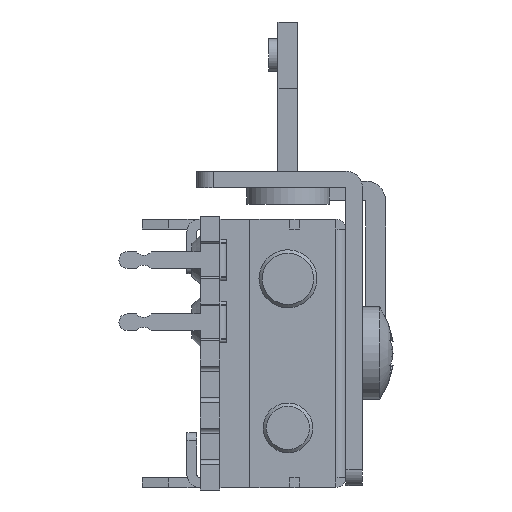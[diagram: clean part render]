
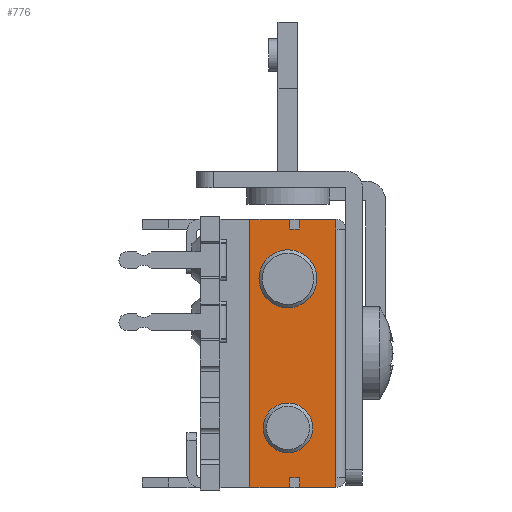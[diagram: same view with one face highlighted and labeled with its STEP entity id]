
A CAD part, left-side view. The second image highlights one B-rep face of the part: STEP entity #776.
In plain terms, the highlighted planar face has unit normal (-1, 0, 0).
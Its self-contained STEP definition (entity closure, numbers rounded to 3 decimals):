
#32 = VERTEX_POINT('',#33);
#33 = CARTESIAN_POINT('',(-63.6,-2.9,-2.9));
#39 = EDGE_CURVE('',#40,#32,#42,.T.);
#40 = VERTEX_POINT('',#41);
#41 = CARTESIAN_POINT('',(-63.6,-0.7,-2.9));
#42 = LINE('',#43,#44);
#43 = CARTESIAN_POINT('',(-63.6,2.3,-2.9));
#44 = VECTOR('',#45,1.);
#45 = DIRECTION('',(0.,-1.,0.));
#64 = VERTEX_POINT('',#65);
#65 = CARTESIAN_POINT('',(-63.6,-0.1,-2.9));
#71 = EDGE_CURVE('',#72,#64,#74,.T.);
#72 = VERTEX_POINT('',#73);
#73 = CARTESIAN_POINT('',(-63.6,2.3,-2.9));
#74 = LINE('',#75,#76);
#75 = CARTESIAN_POINT('',(-63.6,2.3,-2.9));
#76 = VECTOR('',#77,1.);
#77 = DIRECTION('',(0.,-1.,0.));
#727 = EDGE_CURVE('',#728,#32,#730,.T.);
#728 = VERTEX_POINT('',#729);
#729 = CARTESIAN_POINT('',(-63.6,-2.9,-3.5));
#730 = LINE('',#731,#732);
#731 = CARTESIAN_POINT('',(-63.6,-2.9,-2.2));
#732 = VECTOR('',#733,1.);
#733 = DIRECTION('',(0.,0.,1.));
#776 = ADVANCED_FACE('',(#777,#866,#877),#888,.T.);
#777 = FACE_BOUND('',#778,.T.);
#778 = EDGE_LOOP('',(#779,#787,#788,#789,#797,#805,#811,#812,#820,#828,
    #836,#844,#852,#860));
#779 = ORIENTED_EDGE('',*,*,#780,.F.);
#780 = EDGE_CURVE('',#728,#781,#783,.T.);
#781 = VERTEX_POINT('',#782);
#782 = CARTESIAN_POINT('',(-63.6,-2.9,-18.5));
#783 = LINE('',#784,#785);
#784 = CARTESIAN_POINT('',(-63.6,-2.9,-3.5));
#785 = VECTOR('',#786,1.);
#786 = DIRECTION('',(0.,0.,-1.));
#787 = ORIENTED_EDGE('',*,*,#727,.T.);
#788 = ORIENTED_EDGE('',*,*,#39,.F.);
#789 = ORIENTED_EDGE('',*,*,#790,.F.);
#790 = EDGE_CURVE('',#791,#40,#793,.T.);
#791 = VERTEX_POINT('',#792);
#792 = CARTESIAN_POINT('',(-63.6,-0.7,-3.5));
#793 = LINE('',#794,#795);
#794 = CARTESIAN_POINT('',(-63.6,-0.7,-2.2));
#795 = VECTOR('',#796,1.);
#796 = DIRECTION('',(0.,0.,1.));
#797 = ORIENTED_EDGE('',*,*,#798,.F.);
#798 = EDGE_CURVE('',#799,#791,#801,.T.);
#799 = VERTEX_POINT('',#800);
#800 = CARTESIAN_POINT('',(-63.6,-0.1,-3.5));
#801 = LINE('',#802,#803);
#802 = CARTESIAN_POINT('',(-63.6,1.1,-3.5));
#803 = VECTOR('',#804,1.);
#804 = DIRECTION('',(0.,-1.,0.));
#805 = ORIENTED_EDGE('',*,*,#806,.T.);
#806 = EDGE_CURVE('',#799,#64,#807,.T.);
#807 = LINE('',#808,#809);
#808 = CARTESIAN_POINT('',(-63.6,-0.1,-2.2));
#809 = VECTOR('',#810,1.);
#810 = DIRECTION('',(0.,0.,1.));
#811 = ORIENTED_EDGE('',*,*,#71,.F.);
#812 = ORIENTED_EDGE('',*,*,#813,.T.);
#813 = EDGE_CURVE('',#72,#814,#816,.T.);
#814 = VERTEX_POINT('',#815);
#815 = CARTESIAN_POINT('',(-63.6,2.3,-19.1));
#816 = LINE('',#817,#818);
#817 = CARTESIAN_POINT('',(-63.6,2.3,-2.9));
#818 = VECTOR('',#819,1.);
#819 = DIRECTION('',(0.,0.,-1.));
#820 = ORIENTED_EDGE('',*,*,#821,.T.);
#821 = EDGE_CURVE('',#814,#822,#824,.T.);
#822 = VERTEX_POINT('',#823);
#823 = CARTESIAN_POINT('',(-63.6,-0.1,-19.1));
#824 = LINE('',#825,#826);
#825 = CARTESIAN_POINT('',(-63.6,2.3,-19.1));
#826 = VECTOR('',#827,1.);
#827 = DIRECTION('',(0.,-1.,0.));
#828 = ORIENTED_EDGE('',*,*,#829,.T.);
#829 = EDGE_CURVE('',#822,#830,#832,.T.);
#830 = VERTEX_POINT('',#831);
#831 = CARTESIAN_POINT('',(-63.6,-0.1,-18.5));
#832 = LINE('',#833,#834);
#833 = CARTESIAN_POINT('',(-63.6,-0.1,-10.7));
#834 = VECTOR('',#835,1.);
#835 = DIRECTION('',(0.,0.,1.));
#836 = ORIENTED_EDGE('',*,*,#837,.T.);
#837 = EDGE_CURVE('',#830,#838,#840,.T.);
#838 = VERTEX_POINT('',#839);
#839 = CARTESIAN_POINT('',(-63.6,-0.7,-18.5));
#840 = LINE('',#841,#842);
#841 = CARTESIAN_POINT('',(-63.6,1.1,-18.5));
#842 = VECTOR('',#843,1.);
#843 = DIRECTION('',(0.,-1.,0.));
#844 = ORIENTED_EDGE('',*,*,#845,.F.);
#845 = EDGE_CURVE('',#846,#838,#848,.T.);
#846 = VERTEX_POINT('',#847);
#847 = CARTESIAN_POINT('',(-63.6,-0.7,-19.1));
#848 = LINE('',#849,#850);
#849 = CARTESIAN_POINT('',(-63.6,-0.7,-10.7));
#850 = VECTOR('',#851,1.);
#851 = DIRECTION('',(0.,0.,1.));
#852 = ORIENTED_EDGE('',*,*,#853,.T.);
#853 = EDGE_CURVE('',#846,#854,#856,.T.);
#854 = VERTEX_POINT('',#855);
#855 = CARTESIAN_POINT('',(-63.6,-2.9,-19.1));
#856 = LINE('',#857,#858);
#857 = CARTESIAN_POINT('',(-63.6,2.3,-19.1));
#858 = VECTOR('',#859,1.);
#859 = DIRECTION('',(0.,-1.,0.));
#860 = ORIENTED_EDGE('',*,*,#861,.T.);
#861 = EDGE_CURVE('',#854,#781,#862,.T.);
#862 = LINE('',#863,#864);
#863 = CARTESIAN_POINT('',(-63.6,-2.9,-10.7));
#864 = VECTOR('',#865,1.);
#865 = DIRECTION('',(0.,0.,1.));
#866 = FACE_BOUND('',#867,.T.);
#867 = EDGE_LOOP('',(#868));
#868 = ORIENTED_EDGE('',*,*,#869,.T.);
#869 = EDGE_CURVE('',#870,#870,#872,.T.);
#870 = VERTEX_POINT('',#871);
#871 = CARTESIAN_POINT('',(-63.6,1.5,-15.5));
#872 = CIRCLE('',#873,1.5);
#873 = AXIS2_PLACEMENT_3D('',#874,#875,#876);
#874 = CARTESIAN_POINT('',(-63.6,0.,-15.5));
#875 = DIRECTION('',(1.,0.,0.));
#876 = DIRECTION('',(0.,1.,0.));
#877 = FACE_BOUND('',#878,.T.);
#878 = EDGE_LOOP('',(#879));
#879 = ORIENTED_EDGE('',*,*,#880,.T.);
#880 = EDGE_CURVE('',#881,#881,#883,.T.);
#881 = VERTEX_POINT('',#882);
#882 = CARTESIAN_POINT('',(-63.6,1.75,-6.5));
#883 = CIRCLE('',#884,1.75);
#884 = AXIS2_PLACEMENT_3D('',#885,#886,#887);
#885 = CARTESIAN_POINT('',(-63.6,0.,-6.5));
#886 = DIRECTION('',(1.,0.,0.));
#887 = DIRECTION('',(0.,1.,0.));
#888 = PLANE('',#889);
#889 = AXIS2_PLACEMENT_3D('',#890,#891,#892);
#890 = CARTESIAN_POINT('',(-63.6,2.3,-2.9));
#891 = DIRECTION('',(-1.,0.,-0.));
#892 = DIRECTION('',(0.,-1.,0.));
